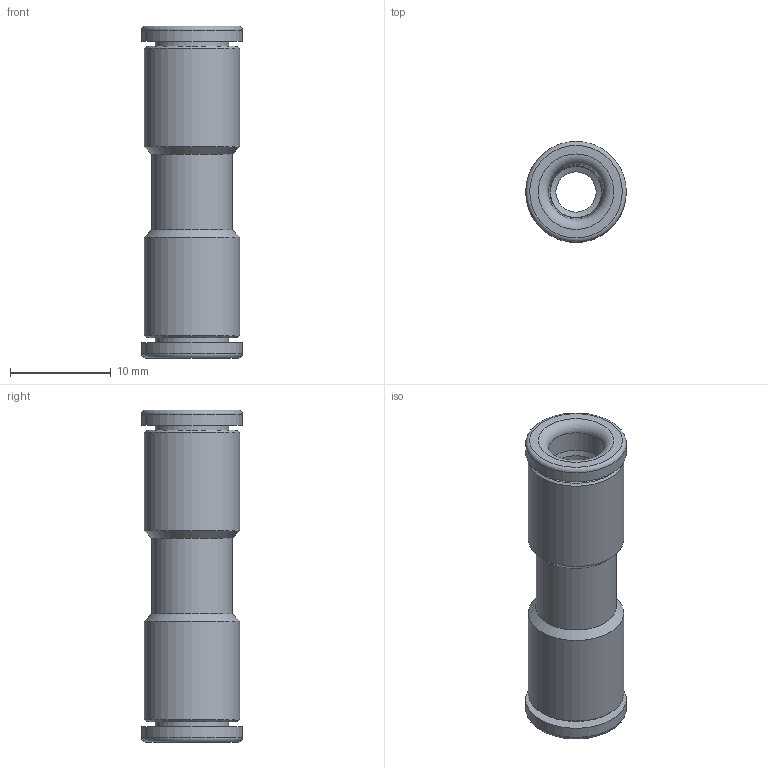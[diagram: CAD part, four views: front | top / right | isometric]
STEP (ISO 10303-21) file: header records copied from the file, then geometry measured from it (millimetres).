
FILE_DESCRIPTION(('Bauteilbeschreibung','HiCAD-Model','HiCAD-STEP-TRANSLATION','Bauteilbeschreibung'),'2;1');
FILE_NAME('B:/ABGLEICH/ZEICHNUNGEN/STEP FÜR INTERNET/STEP/200302_IPSO_03_5_5.STP','2011-07-18T10:26:38+00:00',('Konstrukteur'),('Konstrukteur Firma GmbH'),' HiCAD neXt 2008, Step 3.1.1401.2J ','HiCAD neXt 2008','confidential');
FILE_SCHEMA(('AUTOMOTIVE_DESIGN { 1 2 10303 214 0 1 1 1 }'));
Length unit declared in the file: millimetre
Products named in the file (4): A00302_IPSO_03_5_5; DR5_1; DR501; R200302
Assembly tree (3 placements, depth 2):
  A00302_IPSO_03_5_5
    DR5_1
    DR501
    R200302
Bounding box: 10 x 10 x 33 mm (x, y, z)
Volume: 1187 mm3; surface area: 2445.6 mm2
Topology: 3 solids, 3 shells, 56 faces, 103 edges, 59 vertices
Faces by surface type: cylinder 18, cone 14, plane 12, torus 12
Full cylindrical faces by diameter (mm): 4 x1, 5.1 x2, 5.2 x2, 5.5 x2, 6 x2, 7.3 x2, 7.5 x2, 8 x1, 9.5 x2, 10 x2
Entity records: 1521 total; most frequent: DIRECTION 236, CARTESIAN_POINT 174, AXIS2_PLACEMENT_3D 118, EDGE_LOOP 112, ORIENTED_EDGE 112, COLOUR_RGB 59, PRESENTATION_STYLE_ASSIGNMENT 59, ADVANCED_FACE 56
